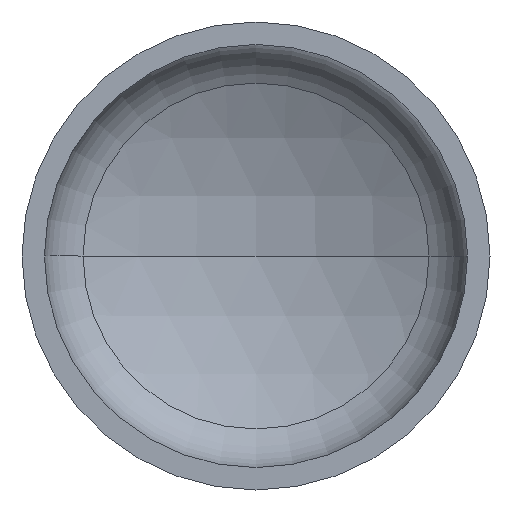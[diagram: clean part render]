
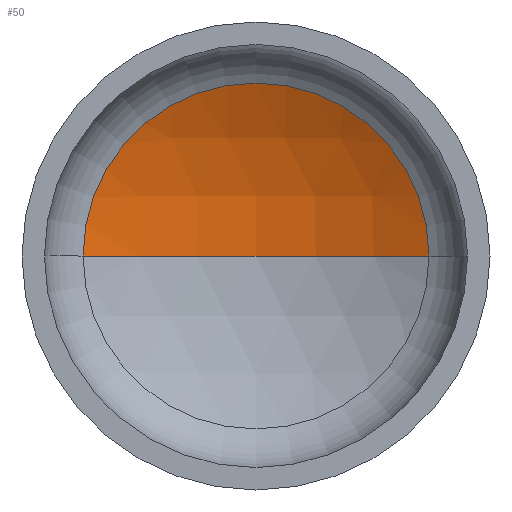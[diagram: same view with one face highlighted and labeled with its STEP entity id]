
A CAD part, front view. The second image highlights one B-rep face of the part: STEP entity #50.
In plain terms, the highlighted spherical face has radius 1200 mm.
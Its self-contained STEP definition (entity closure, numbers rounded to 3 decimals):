
#7 = AXIS2_PLACEMENT_3D ( 'NONE', #76, #218, #264 ) ;
#8 = AXIS2_PLACEMENT_3D ( 'NONE', #271, #100, #299 ) ;
#30 = AXIS2_PLACEMENT_3D ( 'NONE', #56, #173, #315 ) ;
#50 = ADVANCED_FACE ( 'NONE', ( #303 ), #80, .F. ) ;
#56 = CARTESIAN_POINT ( 'NONE',  ( 0., -740.346, 0. ) ) ;
#59 = ORIENTED_EDGE ( 'NONE', *, *, #355, .F. ) ;
#76 = CARTESIAN_POINT ( 'NONE',  ( 0., -740.346, 0. ) ) ;
#77 = DIRECTION ( 'NONE',  ( 1., 0., 0. ) ) ;
#80 = SPHERICAL_SURFACE ( 'NONE', #30, 1200. ) ;
#100 = DIRECTION ( 'NONE',  ( 0., -1., 0. ) ) ;
#118 = CARTESIAN_POINT ( 'NONE',  ( -554.227, 324., 0. ) ) ;
#125 = VERTEX_POINT ( 'NONE', #323 ) ;
#130 = CARTESIAN_POINT ( 'NONE',  ( 0., -740.346, 0. ) ) ;
#173 = DIRECTION ( 'NONE',  ( 0., 0., -1. ) ) ;
#191 = CARTESIAN_POINT ( 'NONE',  ( 554.227, 324., 0. ) ) ;
#218 = DIRECTION ( 'NONE',  ( 0., 0., -1. ) ) ;
#220 = ORIENTED_EDGE ( 'NONE', *, *, #301, .T. ) ;
#228 = CIRCLE ( 'NONE', #324, 1200. ) ;
#249 = CIRCLE ( 'NONE', #7, 1200. ) ;
#256 = ORIENTED_EDGE ( 'NONE', *, *, #305, .T. ) ;
#261 = VERTEX_POINT ( 'NONE', #118 ) ;
#264 = DIRECTION ( 'NONE',  ( -1., 0., 0. ) ) ;
#271 = CARTESIAN_POINT ( 'NONE',  ( 0., 324., 0. ) ) ;
#279 = EDGE_LOOP ( 'NONE', ( #59, #256, #220 ) ) ;
#298 = VERTEX_POINT ( 'NONE', #191 ) ;
#299 = DIRECTION ( 'NONE',  ( 1., 0., 0. ) ) ;
#301 = EDGE_CURVE ( 'NONE', #298, #261, #331, .T. ) ;
#303 = FACE_OUTER_BOUND ( 'NONE', #279, .T. ) ;
#305 = EDGE_CURVE ( 'NONE', #125, #298, #249, .T. ) ;
#315 = DIRECTION ( 'NONE',  ( -1., 0., 0. ) ) ;
#323 = CARTESIAN_POINT ( 'NONE',  ( 0., 459.654, 0. ) ) ;
#324 = AXIS2_PLACEMENT_3D ( 'NONE', #130, #337, #77 ) ;
#331 = CIRCLE ( 'NONE', #8, 554.227 ) ;
#337 = DIRECTION ( 'NONE',  ( 0., 0., 1. ) ) ;
#355 = EDGE_CURVE ( 'NONE', #125, #261, #228, .T. ) ;
